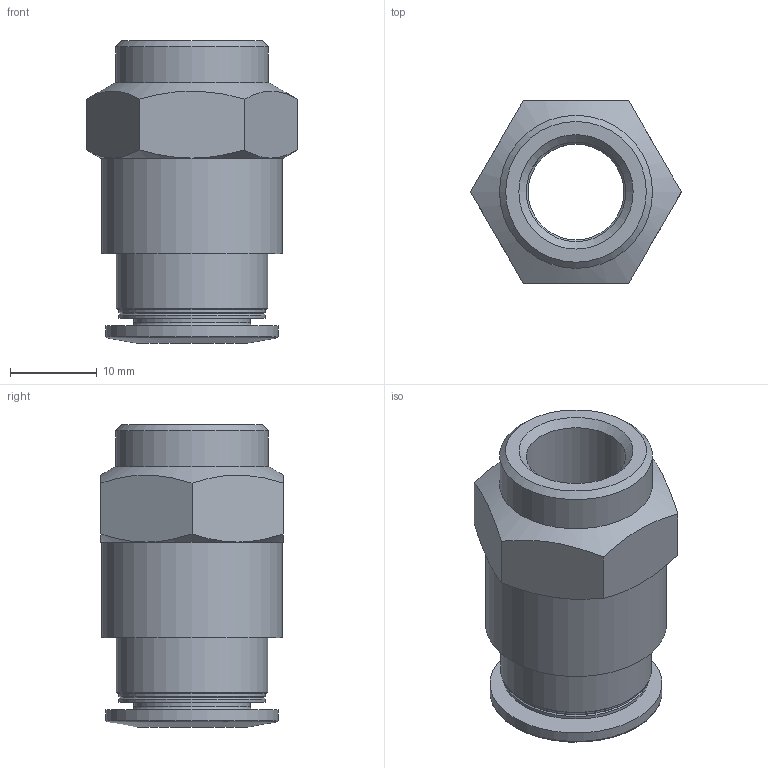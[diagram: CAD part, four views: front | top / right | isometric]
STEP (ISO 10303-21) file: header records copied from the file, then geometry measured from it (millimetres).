
FILE_DESCRIPTION(('HOOPS Exchange Step'),'2;1');
FILE_NAME('/private/var/mobile/Containers/Data/Application/1606885C-1F6A-4C16-ADE5-2EBBFD4A2795/tmp/export/temp_export','2024-08-12T13:28:52+02:00',('mobile'),('Shapr3D Limited'),'HOOPS Exchange 2024.2','Shapr3D','Authorized');
FILE_SCHEMA( ('AP242_MANAGED_MODEL_BASED_3D_ENGINEERING_MIM_LF {1 0 10303 442 1 1 4 }') );
Length unit declared in the file: millimetre
Products named in the file (2): 10,30,4,0007; root
Assembly tree (1 placements, depth 2):
  root
    10,30,4,0007
Bounding box: 24.25 x 21 x 34.8 mm (x, y, z)
Volume: 6711.9 mm3; surface area: 4206.8 mm2
Topology: 1 solids, 1 shells, 42 faces, 91 edges, 57 vertices
Faces by surface type: cone 15, plane 14, cylinder 10, torus 3
Full cylindrical faces by diameter (mm): 11 x1, 11.445 x1, 12 x1, 13.4 x1, 16.8 x2, 17.4 x1, 17.6 x1, 19.8 x1, 20.8 x1
Entity records: 1402 total; most frequent: CARTESIAN_POINT 398, DIRECTION 213, ORIENTED_EDGE 182, AXIS2_PLACEMENT_3D 94, EDGE_CURVE 91, VERTEX_POINT 57, EDGE_LOOP 50, FACE_BOUND 50
